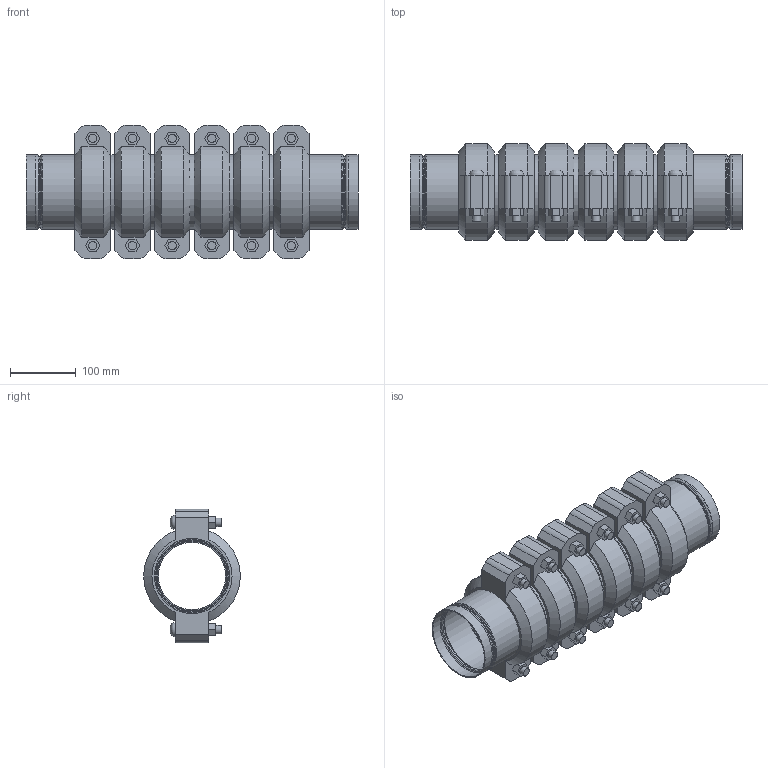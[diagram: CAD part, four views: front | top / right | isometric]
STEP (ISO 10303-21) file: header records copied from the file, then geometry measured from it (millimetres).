
FILE_DESCRIPTION(/* description */ ('VIC STRENGTHIN 100 EXPANSION JOINT 6 COUPLINGS COMPRESSED STYLE E155 (ST1)','CAx-IF Rec.Pracs.---Representation and Presentation of Product Manufacturing Information (PMI)---4.0---2014-10-13'),/* implementation_level */ '2;1');
FILE_NAME(/* name */ 'C:\Users\Vjadhav\AppData\Roaming\Autodesk\ApplicationPlugins\Victaulic.Temp\A634\Victaulic_SS-StrengThin 100_Expansion Joint_Compressed_6 Couplings_Style E155 (ST1)_4 (100).stp',/* time_stamp */ '2021-07-23T12:33:46+05:00',/* author */ ('kkamble'),/* organization */ ('Victaulic'),/* preprocessor_version */ 'ST-DEVELOPER v17.2',/* originating_system */ 'Autodesk Inventor 2019',/* authorisation */ '');
FILE_SCHEMA (('AP242_MANAGED_MODEL_BASED_3D_ENGINEERING_MIM_LF { 1 0 10303 442 1 1 4 }'));
Length unit declared in the file: inch
Products named in the file (4): E155-04.0; E494G-04.0; Nipple-04.0; 075-04.0
Assembly tree (13 placements, depth 2):
  E155-04.0
    E494G-04.0  x2
    Nipple-04.0  x5
    075-04.0  x6
Bounding box: 506.22 x 147.32 x 203.96 mm (x, y, z)
Volume: 3554133.8 mm3; surface area: 847320.8 mm2
Topology: 13 solids, 25 shells, 446 faces, 1134 edges, 802 vertices
Faces by surface type: plane 246, cylinder 128, torus 32, cone 28, bspline 12
Full cylindrical faces by diameter (mm): 12.7 x24, 14.605 x12, 102.26 x5, 105.639 x2, 106.883 x2, 108.839 x2, 110.084 x12, 111.1 x6, 114.3 x27
Entity records: 3663 total; most frequent: DIRECTION 651, CARTESIAN_POINT 645, ORIENTED_EDGE 536, AXIS2_PLACEMENT_3D 277, EDGE_CURVE 268, VERTEX_POINT 193, CIRCLE 163, EDGE_LOOP 123
